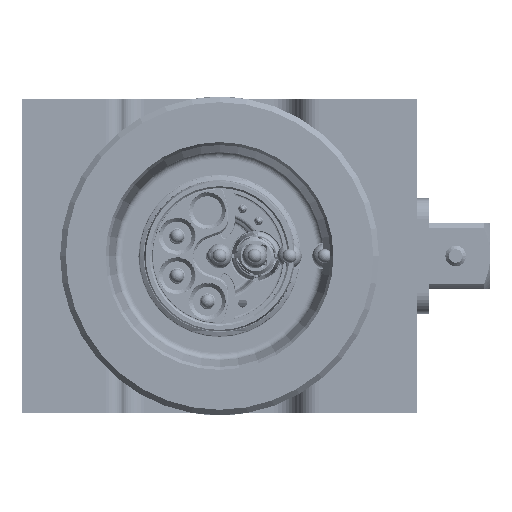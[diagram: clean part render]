
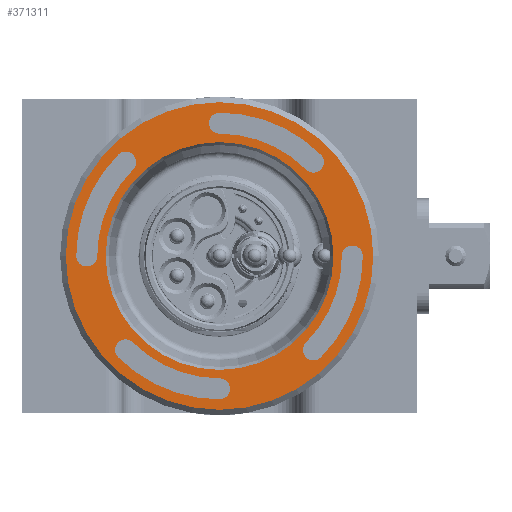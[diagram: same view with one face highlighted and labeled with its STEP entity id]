
A CAD part, left-side view. The second image highlights one B-rep face of the part: STEP entity #371311.
In plain terms, the highlighted planar face has unit normal (-1, 0, 0) as drawn and (0, 1, 0) by its records, which use the part's own axes.
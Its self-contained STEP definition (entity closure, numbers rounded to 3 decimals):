
#370170=CARTESIAN_POINT('',(0.,6.8,0.));
#370171=DIRECTION('',(0.,-1.,0.));
#370172=DIRECTION('',(0.,0.,-1.));
#370173=AXIS2_PLACEMENT_3D('',#370170,#370171,#370172);
#370175=CARTESIAN_POINT('',(0.,6.8,0.));
#370176=DIRECTION('',(0.,1.,0.));
#370177=DIRECTION('',(0.,0.,-1.));
#370178=AXIS2_PLACEMENT_3D('',#370175,#370176,#370177);
#370180=CARTESIAN_POINT('',(0.,6.8,0.));
#370181=DIRECTION('',(0.,1.,0.));
#370182=DIRECTION('',(-0.707,0.,0.707));
#370183=AXIS2_PLACEMENT_3D('',#370180,#370181,#370182);
#370185=CARTESIAN_POINT('',(0.,6.8,18.978));
#370186=DIRECTION('',(0.,1.,0.));
#370187=DIRECTION('',(0.,0.,1.));
#370188=AXIS2_PLACEMENT_3D('',#370185,#370186,#370187);
#370190=CARTESIAN_POINT('',(0.,6.8,0.));
#370191=DIRECTION('',(0.,1.,0.));
#370192=DIRECTION('',(-0.707,0.,0.707));
#370193=AXIS2_PLACEMENT_3D('',#370190,#370191,#370192);
#370195=CARTESIAN_POINT('',(-13.419,6.8,13.419));
#370196=DIRECTION('',(0.,1.,0.));
#370197=DIRECTION('',(0.707,0.,-0.707));
#370198=AXIS2_PLACEMENT_3D('',#370195,#370196,#370197);
#370200=CARTESIAN_POINT('',(0.,6.8,0.));
#370201=DIRECTION('',(0.,1.,0.));
#370202=DIRECTION('',(0.707,0.,0.707));
#370203=AXIS2_PLACEMENT_3D('',#370200,#370201,#370202);
#370205=CARTESIAN_POINT('',(18.978,6.8,0.));
#370206=DIRECTION('',(0.,1.,0.));
#370207=DIRECTION('',(1.,0.,0.));
#370208=AXIS2_PLACEMENT_3D('',#370205,#370206,#370207);
#370210=CARTESIAN_POINT('',(0.,6.8,0.));
#370211=DIRECTION('',(0.,1.,0.));
#370212=DIRECTION('',(0.707,0.,0.707));
#370213=AXIS2_PLACEMENT_3D('',#370210,#370211,#370212);
#370215=CARTESIAN_POINT('',(13.419,6.8,13.419));
#370216=DIRECTION('',(0.,1.,0.));
#370217=DIRECTION('',(-0.707,0.,-0.707));
#370218=AXIS2_PLACEMENT_3D('',#370215,#370216,#370217);
#370220=CARTESIAN_POINT('',(0.,6.8,0.));
#370221=DIRECTION('',(0.,1.,0.));
#370222=DIRECTION('',(0.707,0.,-0.707));
#370223=AXIS2_PLACEMENT_3D('',#370220,#370221,#370222);
#370225=CARTESIAN_POINT('',(0.,6.8,-18.978));
#370226=DIRECTION('',(0.,1.,0.));
#370227=DIRECTION('',(0.,0.,-1.));
#370228=AXIS2_PLACEMENT_3D('',#370225,#370226,#370227);
#370230=CARTESIAN_POINT('',(0.,6.8,0.));
#370231=DIRECTION('',(0.,1.,0.));
#370232=DIRECTION('',(0.707,0.,-0.707));
#370233=AXIS2_PLACEMENT_3D('',#370230,#370231,#370232);
#370235=CARTESIAN_POINT('',(13.419,6.8,-13.419));
#370236=DIRECTION('',(0.,1.,0.));
#370237=DIRECTION('',(-0.707,0.,0.707));
#370238=AXIS2_PLACEMENT_3D('',#370235,#370236,#370237);
#370240=CARTESIAN_POINT('',(0.,6.8,0.));
#370241=DIRECTION('',(0.,1.,0.));
#370242=DIRECTION('',(-0.707,0.,-0.707));
#370243=AXIS2_PLACEMENT_3D('',#370240,#370241,#370242);
#370245=CARTESIAN_POINT('',(-18.978,6.8,0.));
#370246=DIRECTION('',(0.,1.,0.));
#370247=DIRECTION('',(-1.,0.,0.));
#370248=AXIS2_PLACEMENT_3D('',#370245,#370246,#370247);
#370250=CARTESIAN_POINT('',(0.,6.8,0.));
#370251=DIRECTION('',(0.,1.,0.));
#370252=DIRECTION('',(-0.707,0.,-0.707));
#370253=AXIS2_PLACEMENT_3D('',#370250,#370251,#370252);
#370255=CARTESIAN_POINT('',(-13.419,6.8,-13.419));
#370256=DIRECTION('',(0.,1.,0.));
#370257=DIRECTION('',(0.707,0.,0.707));
#370258=AXIS2_PLACEMENT_3D('',#370255,#370256,#370257);
#370269=CARTESIAN_POINT('',(0.,6.8,0.));
#370270=DIRECTION('',(0.,1.,0.));
#370271=DIRECTION('',(0.,0.,-1.));
#370272=AXIS2_PLACEMENT_3D('',#370269,#370270,#370271);
#370283=CARTESIAN_POINT('',(0.,6.8,0.));
#370284=DIRECTION('',(0.,-1.,0.));
#370285=DIRECTION('',(0.,0.,-1.));
#370286=AXIS2_PLACEMENT_3D('',#370283,#370284,#370285);
#370505=CARTESIAN_POINT('',(0.,6.8,-21.975));
#370506=CARTESIAN_POINT('',(0.,6.8,21.975));
#370507=VERTEX_POINT('',#370505);
#370508=VERTEX_POINT('',#370506);
#370526=CARTESIAN_POINT('',(0.,6.8,-16.275));
#370528=VERTEX_POINT('',#370526);
#370530=CARTESIAN_POINT('',(0.,6.8,16.275));
#370532=VERTEX_POINT('',#370530);
#370569=CARTESIAN_POINT('',(-14.48,6.8,14.48));
#370570=CARTESIAN_POINT('',(0.,6.8,20.478));
#370571=VERTEX_POINT('',#370569);
#370572=VERTEX_POINT('',#370570);
#370573=CARTESIAN_POINT('',(0.,6.8,17.478));
#370574=VERTEX_POINT('',#370573);
#370575=CARTESIAN_POINT('',(-12.358,6.8,12.358));
#370576=VERTEX_POINT('',#370575);
#370585=CARTESIAN_POINT('',(14.48,6.8,14.48));
#370586=CARTESIAN_POINT('',(20.478,6.8,0.));
#370587=VERTEX_POINT('',#370585);
#370588=VERTEX_POINT('',#370586);
#370589=CARTESIAN_POINT('',(17.478,6.8,0.));
#370590=VERTEX_POINT('',#370589);
#370591=CARTESIAN_POINT('',(12.358,6.8,12.358));
#370592=VERTEX_POINT('',#370591);
#370601=CARTESIAN_POINT('',(14.48,6.8,-14.48));
#370602=CARTESIAN_POINT('',(0.,6.8,-20.478));
#370603=VERTEX_POINT('',#370601);
#370604=VERTEX_POINT('',#370602);
#370605=CARTESIAN_POINT('',(0.,6.8,-17.478));
#370606=VERTEX_POINT('',#370605);
#370607=CARTESIAN_POINT('',(12.358,6.8,-12.358));
#370608=VERTEX_POINT('',#370607);
#370617=CARTESIAN_POINT('',(-14.48,6.8,-14.48));
#370618=CARTESIAN_POINT('',(-20.478,6.8,0.));
#370619=VERTEX_POINT('',#370617);
#370620=VERTEX_POINT('',#370618);
#370621=CARTESIAN_POINT('',(-17.478,6.8,0.));
#370622=VERTEX_POINT('',#370621);
#370623=CARTESIAN_POINT('',(-12.358,6.8,-12.358));
#370624=VERTEX_POINT('',#370623);
#371256=CARTESIAN_POINT('',(0.,6.8,0.));
#371257=DIRECTION('',(0.,1.,0.));
#371258=DIRECTION('',(0.,0.,1.));
#371259=AXIS2_PLACEMENT_3D('',#371256,#371257,#371258);
#371260=PLANE('',#371259);
#371262=ORIENTED_EDGE('',*,*,#371261,.F.);
#371264=ORIENTED_EDGE('',*,*,#371263,.T.);
#371265=EDGE_LOOP('',(#371262,#371264));
#371266=FACE_OUTER_BOUND('',#371265,.F.);
#371267=ORIENTED_EDGE('',*,*,#371249,.F.);
#371268=ORIENTED_EDGE('',*,*,#371238,.T.);
#371269=EDGE_LOOP('',(#371267,#371268));
#371270=FACE_BOUND('',#371269,.F.);
#371272=ORIENTED_EDGE('',*,*,#371271,.T.);
#371274=ORIENTED_EDGE('',*,*,#371273,.T.);
#371276=ORIENTED_EDGE('',*,*,#371275,.F.);
#371278=ORIENTED_EDGE('',*,*,#371277,.T.);
#371279=EDGE_LOOP('',(#371272,#371274,#371276,#371278));
#371280=FACE_BOUND('',#371279,.F.);
#371282=ORIENTED_EDGE('',*,*,#371281,.T.);
#371284=ORIENTED_EDGE('',*,*,#371283,.T.);
#371286=ORIENTED_EDGE('',*,*,#371285,.F.);
#371288=ORIENTED_EDGE('',*,*,#371287,.T.);
#371289=EDGE_LOOP('',(#371282,#371284,#371286,#371288));
#371290=FACE_BOUND('',#371289,.F.);
#371292=ORIENTED_EDGE('',*,*,#371291,.T.);
#371294=ORIENTED_EDGE('',*,*,#371293,.T.);
#371296=ORIENTED_EDGE('',*,*,#371295,.F.);
#371298=ORIENTED_EDGE('',*,*,#371297,.T.);
#371299=EDGE_LOOP('',(#371292,#371294,#371296,#371298));
#371300=FACE_BOUND('',#371299,.F.);
#371302=ORIENTED_EDGE('',*,*,#371301,.T.);
#371304=ORIENTED_EDGE('',*,*,#371303,.T.);
#371306=ORIENTED_EDGE('',*,*,#371305,.F.);
#371308=ORIENTED_EDGE('',*,*,#371307,.T.);
#371309=EDGE_LOOP('',(#371302,#371304,#371306,#371308));
#371310=FACE_BOUND('',#371309,.F.);
#371311=ADVANCED_FACE('',(#371266,#371270,#371280,#371290,#371300,#371310),
#371260,.T.);
#370174=CIRCLE('',#370173,16.275);
#370179=CIRCLE('',#370178,16.275);
#370184=CIRCLE('',#370183,20.478);
#370189=CIRCLE('',#370188,1.5);
#370194=CIRCLE('',#370193,17.478);
#370199=CIRCLE('',#370198,1.5);
#370204=CIRCLE('',#370203,20.478);
#370209=CIRCLE('',#370208,1.5);
#370214=CIRCLE('',#370213,17.478);
#370219=CIRCLE('',#370218,1.5);
#370224=CIRCLE('',#370223,20.478);
#370229=CIRCLE('',#370228,1.5);
#370234=CIRCLE('',#370233,17.478);
#370239=CIRCLE('',#370238,1.5);
#370244=CIRCLE('',#370243,20.478);
#370249=CIRCLE('',#370248,1.5);
#370254=CIRCLE('',#370253,17.478);
#370259=CIRCLE('',#370258,1.5);
#370273=CIRCLE('',#370272,21.975);
#370287=CIRCLE('',#370286,21.975);
#371238=EDGE_CURVE('',#370528,#370532,#370179,.T.);
#371249=EDGE_CURVE('',#370528,#370532,#370174,.T.);
#371261=EDGE_CURVE('',#370507,#370508,#370273,.T.);
#371263=EDGE_CURVE('',#370507,#370508,#370287,.T.);
#371271=EDGE_CURVE('',#370571,#370572,#370184,.T.);
#371273=EDGE_CURVE('',#370572,#370574,#370189,.T.);
#371275=EDGE_CURVE('',#370576,#370574,#370194,.T.);
#371277=EDGE_CURVE('',#370576,#370571,#370199,.T.);
#371281=EDGE_CURVE('',#370587,#370588,#370204,.T.);
#371283=EDGE_CURVE('',#370588,#370590,#370209,.T.);
#371285=EDGE_CURVE('',#370592,#370590,#370214,.T.);
#371287=EDGE_CURVE('',#370592,#370587,#370219,.T.);
#371291=EDGE_CURVE('',#370603,#370604,#370224,.T.);
#371293=EDGE_CURVE('',#370604,#370606,#370229,.T.);
#371295=EDGE_CURVE('',#370608,#370606,#370234,.T.);
#371297=EDGE_CURVE('',#370608,#370603,#370239,.T.);
#371301=EDGE_CURVE('',#370619,#370620,#370244,.T.);
#371303=EDGE_CURVE('',#370620,#370622,#370249,.T.);
#371305=EDGE_CURVE('',#370624,#370622,#370254,.T.);
#371307=EDGE_CURVE('',#370624,#370619,#370259,.T.);
